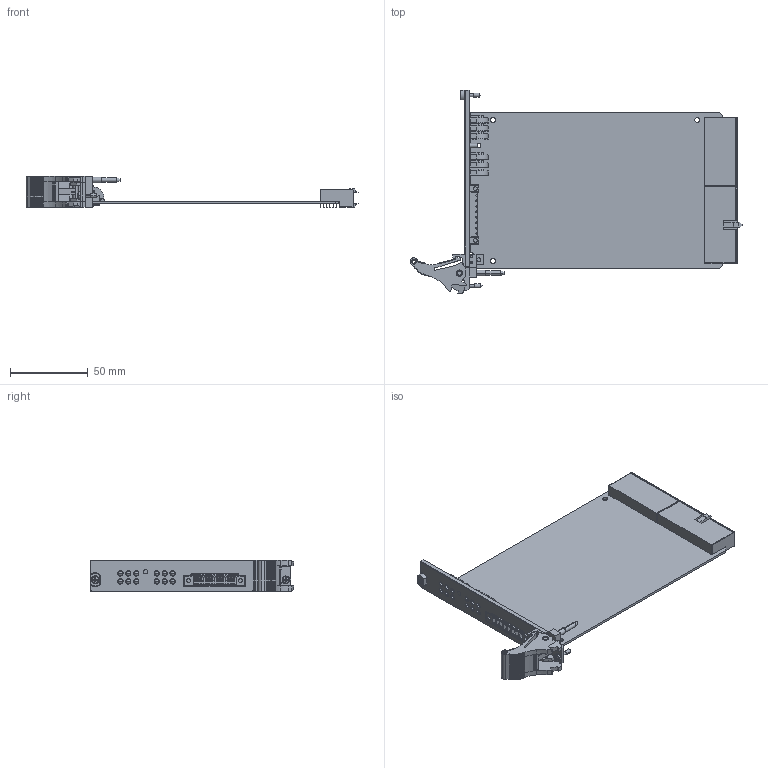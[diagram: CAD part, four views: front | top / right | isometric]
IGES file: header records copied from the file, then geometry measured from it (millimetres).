
Start section:  PTC IGES file: cu_pxi-8250.igs
Global section: file name: cu_pxi-8250.igs; native system: Creo Parametric by Parametric Technology Corporation; preprocessor: 2015280; author: gvillanu; organization: Unknown; date: 20160127.085907; units: inch
Bounding box: 213.12 x 130.55 x 20.19 mm (x, y, z)
Surface area: 59566.8 mm2 (no closed solid volume)
Topology: 0 solids, 100 shells, 1360 faces, 4627 edges, 3285 vertices
Faces by surface type: bspline 889, revolution 469, extrusion 2
